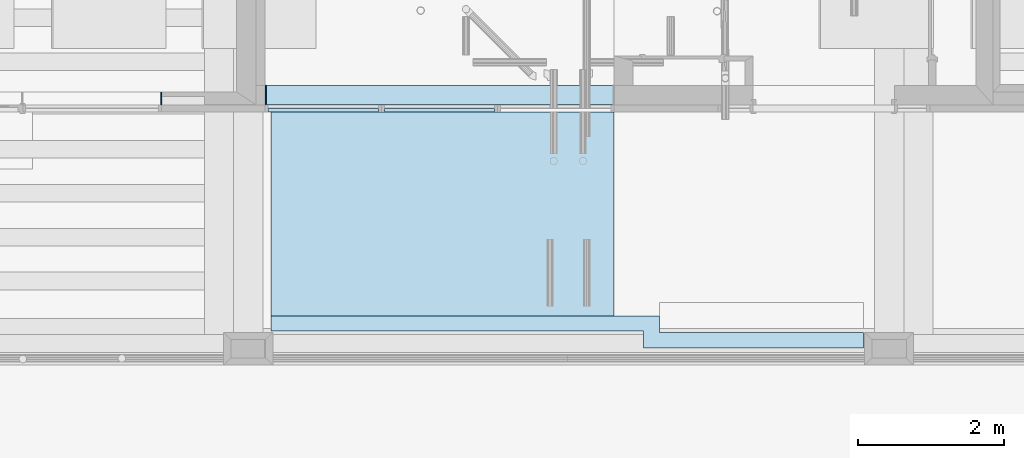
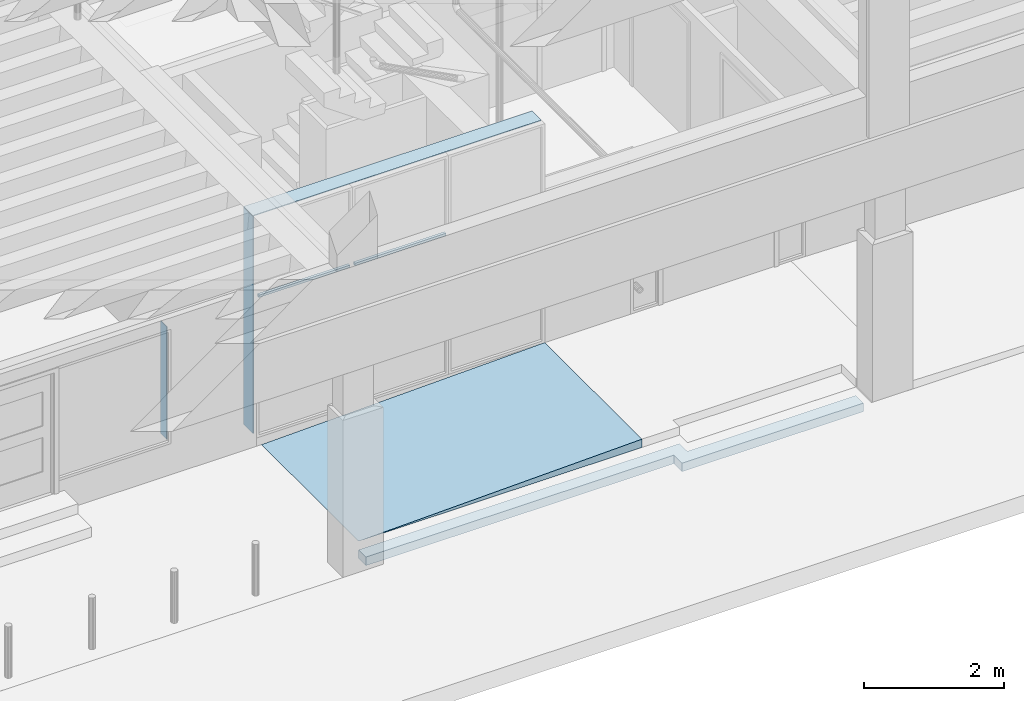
# One storey, part 16 of 106: 7 slabs.
"""IFC2X3 building model written with IfcOpenShell, lengths in metres."""

from ifc_helpers import new_model, entity, si_unit, converted_unit, derived_unit, money_unit, direction, origin_with_axes, place, context, subcontext, project, spatial, faceted_brep, material, type_object, element, save


model = new_model("IFC2X3")

# Units and contexts
model_context = context("Model", 3, precision=1e-05, world=origin_with_axes(), true_north=direction((0.0, 1.0)))
body_context = subcontext(model_context, "Body", "Model", "MODEL_VIEW", scale=1.0)
ifc_project = project(units=[si_unit("LENGTHUNIT", "METRE"), si_unit("AREAUNIT", "SQUARE_METRE"), si_unit("VOLUMEUNIT", "CUBIC_METRE"), si_unit("ABSORBEDDOSEUNIT", "GRAY"), si_unit("AMOUNTOFSUBSTANCEUNIT", "MOLE"), si_unit("DOSEEQUIVALENTUNIT", "SIEVERT"), si_unit("ELECTRICCAPACITANCEUNIT", "FARAD"), si_unit("ELECTRICCHARGEUNIT", "COULOMB"), si_unit("ELECTRICCONDUCTANCEUNIT", "SIEMENS"), si_unit("ELECTRICCURRENTUNIT", "AMPERE"), si_unit("ELECTRICRESISTANCEUNIT", "OHM"), si_unit("ELECTRICVOLTAGEUNIT", "VOLT"), si_unit("ENERGYUNIT", "JOULE"), si_unit("FORCEUNIT", "NEWTON"), si_unit("FREQUENCYUNIT", "HERTZ"), si_unit("ILLUMINANCEUNIT", "LUX"), si_unit("INDUCTANCEUNIT", "HENRY"), si_unit("LUMINOUSFLUXUNIT", "LUMEN"), si_unit("LUMINOUSINTENSITYUNIT", "CANDELA"), si_unit("MAGNETICFLUXDENSITYUNIT", "TESLA"), si_unit("MAGNETICFLUXUNIT", "WEBER"), si_unit("MASSUNIT", "GRAM"), converted_unit("PLANEANGLEUNIT", "degree", entity("IfcReal", 0.0174532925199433), si_unit("PLANEANGLEUNIT", "RADIAN"), dimensions=[0, 0, 0, 0, 0, 0, 0]), si_unit("POWERUNIT", "WATT"), si_unit("PRESSUREUNIT", "PASCAL"), si_unit("RADIOACTIVITYUNIT", "BECQUEREL"), si_unit("SOLIDANGLEUNIT", "STERADIAN"), si_unit("THERMODYNAMICTEMPERATUREUNIT", "KELVIN"), si_unit("TIMEUNIT", "SECOND"), derived_unit("ACCELERATIONUNIT", [(si_unit("LENGTHUNIT", "METRE"), 1), (si_unit("TIMEUNIT", "SECOND"), -2)]), derived_unit("ANGULARVELOCITYUNIT", [(converted_unit("PLANEANGLEUNIT", "degree", entity("IfcReal", 0.0174532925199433), si_unit("PLANEANGLEUNIT", "RADIAN"), dimensions=[0, 0, 0, 0, 0, 0, 0]), 1), (si_unit("TIMEUNIT", "SECOND"), -1)]), derived_unit("CURVATUREUNIT", [(converted_unit("PLANEANGLEUNIT", "degree", entity("IfcReal", 0.0174532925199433), si_unit("PLANEANGLEUNIT", "RADIAN"), dimensions=[0, 0, 0, 0, 0, 0, 0]), 1), (si_unit("LENGTHUNIT", "METRE"), -1)]), derived_unit("DYNAMICVISCOSITYUNIT", [(si_unit("PRESSUREUNIT", "PASCAL"), 1), (si_unit("TIMEUNIT", "SECOND"), 1)]), derived_unit("HEATFLUXDENSITYUNIT", [(si_unit("POWERUNIT", "WATT"), 1), (si_unit("LENGTHUNIT", "METRE"), -2)]), derived_unit("HEATINGVALUEUNIT", [(si_unit("ENERGYUNIT", "JOULE"), 1), (si_unit("MASSUNIT", "GRAM"), -1)]), derived_unit("INTEGERCOUNTRATEUNIT", [(si_unit("TIMEUNIT", "SECOND"), -1)]), derived_unit("IONCONCENTRATIONUNIT", [(si_unit("MASSUNIT", "GRAM"), 1), (si_unit("VOLUMEUNIT", "CUBIC_METRE"), -1)]), derived_unit("ISOTHERMALMOISTURECAPACITYUNIT", [(si_unit("VOLUMEUNIT", "CUBIC_METRE"), 1), (si_unit("MASSUNIT", "GRAM"), -1)]), derived_unit("KINEMATICVISCOSITYUNIT", [(si_unit("AREAUNIT", "SQUARE_METRE"), 1), (si_unit("TIMEUNIT", "SECOND"), -1)]), derived_unit("LINEARFORCEUNIT", [(si_unit("FORCEUNIT", "NEWTON"), 1), (si_unit("LENGTHUNIT", "METRE"), -1)]), derived_unit("LINEARMOMENTUNIT", [(si_unit("FORCEUNIT", "NEWTON"), 1), (si_unit("LENGTHUNIT", "METRE"), -1)]), derived_unit("LINEARSTIFFNESSUNIT", [(si_unit("FORCEUNIT", "NEWTON"), 1), (si_unit("LENGTHUNIT", "METRE"), -1)]), derived_unit("LINEARVELOCITYUNIT", [(si_unit("LENGTHUNIT", "METRE"), 1), (si_unit("TIMEUNIT", "SECOND"), -1)]), derived_unit("LUMINOUSINTENSITYDISTRIBUTIONUNIT", [(si_unit("LUMINOUSINTENSITYUNIT", "CANDELA"), 1), (si_unit("LUMINOUSFLUXUNIT", "LUMEN"), -1)]), derived_unit("MASSDENSITYUNIT", [(si_unit("MASSUNIT", "GRAM"), 1), (si_unit("VOLUMEUNIT", "CUBIC_METRE"), -1)]), derived_unit("MASSFLOWRATEUNIT", [(si_unit("MASSUNIT", "GRAM"), 1), (si_unit("TIMEUNIT", "SECOND"), -1)]), derived_unit("MASSPERLENGTHUNIT", [(si_unit("MASSUNIT", "GRAM"), 1), (si_unit("LENGTHUNIT", "METRE"), -1)]), derived_unit("MODULUSOFELASTICITYUNIT", [(si_unit("FORCEUNIT", "NEWTON"), 1), (si_unit("AREAUNIT", "SQUARE_METRE"), -1)]), derived_unit("MODULUSOFLINEARSUBGRADEREACTIONUNIT", [(si_unit("FORCEUNIT", "NEWTON"), 1), (si_unit("LENGTHUNIT", "METRE"), -2)]), derived_unit("MODULUSOFROTATIONALSUBGRADEREACTIONUNIT", [(si_unit("FORCEUNIT", "NEWTON"), 1), (si_unit("LENGTHUNIT", "METRE"), 1)]), derived_unit("MODULUSOFSUBGRADEREACTIONUNIT", [(si_unit("FORCEUNIT", "NEWTON"), 1), (si_unit("VOLUMEUNIT", "CUBIC_METRE"), -1)]), derived_unit("MOISTUREDIFFUSIVITYUNIT", [(si_unit("VOLUMEUNIT", "CUBIC_METRE"), 1), (si_unit("TIMEUNIT", "SECOND"), -1)]), derived_unit("MOLECULARWEIGHTUNIT", [(si_unit("MASSUNIT", "GRAM"), 1), (si_unit("AMOUNTOFSUBSTANCEUNIT", "MOLE"), -1)]), derived_unit("PLANARFORCEUNIT", [(si_unit("FORCEUNIT", "NEWTON"), 1), (si_unit("LENGTHUNIT", "METRE"), -2)]), derived_unit("ROTATIONALFREQUENCYUNIT", [(si_unit("TIMEUNIT", "SECOND"), -1)]), derived_unit("ROTATIONALMASSUNIT", [(si_unit("MASSUNIT", "GRAM"), 1), (si_unit("LENGTHUNIT", "METRE"), 2)]), derived_unit("ROTATIONALSTIFFNESSUNIT", [(si_unit("FORCEUNIT", "NEWTON"), 1), (si_unit("LENGTHUNIT", "METRE"), 1), (converted_unit("PLANEANGLEUNIT", "degree", entity("IfcReal", 0.0174532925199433), si_unit("PLANEANGLEUNIT", "RADIAN"), dimensions=[0, 0, 0, 0, 0, 0, 0]), -1)]), derived_unit("SECTIONAREAINTEGRALUNIT", [(si_unit("LENGTHUNIT", "METRE"), 5)]), derived_unit("SECTIONMODULUSUNIT", [(si_unit("LENGTHUNIT", "METRE"), 3)]), derived_unit("SHEARMODULUSUNIT", [(si_unit("FORCEUNIT", "NEWTON"), 1), (si_unit("AREAUNIT", "SQUARE_METRE"), -1)]), derived_unit("SOUNDPOWERUNIT", [(si_unit("ENERGYUNIT", "JOULE"), 1), (si_unit("TIMEUNIT", "SECOND"), -1)]), derived_unit("SPECIFICHEATCAPACITYUNIT", [(si_unit("FORCEUNIT", "NEWTON"), 1), (si_unit("MASSUNIT", "GRAM"), -1), (si_unit("THERMODYNAMICTEMPERATUREUNIT", "KELVIN"), -1)]), derived_unit("TEMPERATUREGRADIENTUNIT", [(si_unit("THERMODYNAMICTEMPERATUREUNIT", "KELVIN"), 1), (si_unit("LENGTHUNIT", "METRE"), -1)]), derived_unit("THERMALADMITTANCEUNIT", [(si_unit("POWERUNIT", "WATT"), 1), (si_unit("AREAUNIT", "SQUARE_METRE"), -1), (si_unit("THERMODYNAMICTEMPERATUREUNIT", "KELVIN"), -1)]), derived_unit("THERMALCONDUCTANCEUNIT", [(si_unit("POWERUNIT", "WATT"), 1), (si_unit("LENGTHUNIT", "METRE"), -1), (si_unit("THERMODYNAMICTEMPERATUREUNIT", "KELVIN"), -1)]), derived_unit("THERMALEXPANSIONCOEFFICIENTUNIT", [(si_unit("THERMODYNAMICTEMPERATUREUNIT", "KELVIN"), -1)]), derived_unit("THERMALRESISTANCEUNIT", [(si_unit("AREAUNIT", "SQUARE_METRE"), 1), (si_unit("POWERUNIT", "WATT"), -1)]), derived_unit("THERMALTRANSMITTANCEUNIT", [(si_unit("POWERUNIT", "WATT"), 1), (si_unit("AREAUNIT", "SQUARE_METRE"), -1), (si_unit("THERMODYNAMICTEMPERATUREUNIT", "KELVIN"), -1)]), derived_unit("TORQUEUNIT", [(si_unit("FORCEUNIT", "NEWTON"), 1), (si_unit("LENGTHUNIT", "METRE"), 1)]), derived_unit("VAPORPERMEABILITYUNIT", [(si_unit("MASSUNIT", "GRAM"), 1), (si_unit("TIMEUNIT", "SECOND"), -1)]), derived_unit("VOLUMETRICFLOWRATEUNIT", [(si_unit("VOLUMEUNIT", "CUBIC_METRE"), 1), (si_unit("TIMEUNIT", "SECOND"), -1)]), derived_unit("WARPINGCONSTANTUNIT", [(si_unit("LENGTHUNIT", "METRE"), 6)]), derived_unit("WARPINGMOMENTUNIT", [(si_unit("FORCEUNIT", "NEWTON"), 1), (si_unit("LENGTHUNIT", "METRE"), 2)]), money_unit("GBP")], contexts=[model_context])

# Site, building, storey
site_placement = place(None, origin_with_axes())
site = spatial("IfcSite", under=ifc_project, at=site_placement, Name="Site", CompositionType="ELEMENT")
building_placement = place(site_placement, origin_with_axes())
building = spatial("IfcBuilding", under=site, at=building_placement, Name="Building01", CompositionType="ELEMENT")
storey_placement = place(building_placement, origin_with_axes())
storey = spatial("IfcBuildingStorey", under=building, at=storey_placement, Name="GF", CompositionType="ELEMENT", Elevation=0.0)

# Slabs
ifc_material_1 = material(Name="A_BSUK_Slabs")
slab_type = type_object("IfcSlabType", Name="A-FloorsSlabs A_BSUK_Slabs", PredefinedType="FLOOR")
placement = place(storey_placement, origin_with_axes())
element("IfcSlab", 1, at=placement, inside=storey, type_object=slab_type, material=ifc_material_1, Name="A-FloorsSlabs A_BSUK_Slabs", ObjectType="CompoundSlabLeaf", context=body_context, shape_type="Brep", body=[
    faceted_brep([(9.437557, 0.463994, -0.445), (9.437557, 0.463994, -0.295), (9.437557, 0.672774, -0.295), (9.437557, 0.672774, -0.445), (14.529762, 0.463994, -0.445), (14.529762, 0.463994, -0.295), (14.529762, 0.231664, -0.445), (14.529762, 0.231664, -0.295), (17.533204, 0.231664, -0.445), (17.533204, 0.231664, -0.295), (17.533212, 0.449009, -0.445), (17.533212, 0.449009, -0.295), (14.745613, 0.449113, -0.445), (14.745613, 0.449113, -0.295), (14.745621, 0.672774, -0.445), (14.745621, 0.672774, -0.295)], [[[0, 1, 2, 3]], [[4, 5, 1, 0]], [[6, 7, 5, 4]], [[8, 9, 7, 6]], [[10, 11, 9, 8]], [[12, 13, 11, 10]], [[14, 15, 13, 12]], [[3, 2, 15, 14]], [[1, 5, 7, 9, 11, 13, 15, 2]], [[3, 14, 12, 10, 8, 6, 4, 0]]]),
])
element("IfcSlab", 2, at=placement, inside=storey, type_object=slab_type, material=ifc_material_1, Name="A-FloorsSlabs A_BSUK_Slabs", ObjectType="CompoundSlabLeaf", context=body_context, shape_type="Brep", body=[
    faceted_brep([(7.941681, 3.559009, 0.413), (7.926681, 3.559009, 0.413), (7.926681, 3.733332, 0.413), (7.941681, 3.733332, 0.413), (7.941681, 3.55892, 2.383), (7.926681, 3.55892, 2.383), (7.941681, 3.733208, 2.383), (7.926681, 3.733208, 2.383)], [[[0, 1, 2, 3]], [[4, 5, 1, 0]], [[6, 7, 5, 4]], [[3, 2, 7, 6]], [[1, 5, 7, 2]], [[3, 6, 4, 0]]]),
])
element("IfcSlab", 3, at=placement, inside=storey, type_object=slab_type, material=ifc_material_1, Name="A-FloorsSlabs A_BSUK_Slabs", ObjectType="CompoundSlabLeaf", context=body_context, shape_type="Brep", body=[
    faceted_brep([(14.124099, 0.672774, -0.145), (14.124099, 3.458774, -0.145), (14.124099, 3.458774, 0.0), (14.124099, 0.672774, 0.0), (9.437531, 0.672774, -0.145), (9.437531, 3.458774, -0.145)], [[[0, 1, 2, 3]], [[4, 5, 1, 0]], [[3, 2, 5, 4]], [[1, 5, 2]], [[3, 4, 0]]]),
])
element("IfcSlab", 4, at=placement, inside=storey, type_object=slab_type, material=ifc_material_1, Name="A-FloorsSlabs A_BSUK_Slabs", ObjectType="CompoundSlabLeaf", context=body_context, shape_type="Brep", body=[
    faceted_brep([(9.354099, 3.559352, 3.815), (9.354099, 3.559352, 3.83), (9.354099, 3.823962, 3.83), (9.354099, 3.823962, 3.815), (14.124099, 3.559352, 3.815), (14.124099, 3.559352, 3.83), (14.124099, 3.823962, 3.815), (14.124099, 3.823962, 3.83)], [[[0, 1, 2, 3]], [[4, 5, 1, 0]], [[6, 7, 5, 4]], [[3, 2, 7, 6]], [[1, 5, 7, 2]], [[3, 6, 4, 0]]]),
])
element("IfcSlab", 5, at=placement, inside=storey, type_object=slab_type, material=ifc_material_1, Name="A-FloorsSlabs A_BSUK_Slabs", ObjectType="CompoundSlabLeaf", context=body_context, shape_type="Brep", body=[
    faceted_brep([(9.369099, 3.559352, 0.015), (9.354099, 3.559352, 0.015), (9.354099, 3.823962, 0.015), (9.369099, 3.823962, 0.015), (9.369099, 3.559188, 3.815), (9.354099, 3.559188, 3.815), (9.369099, 3.823763, 3.815), (9.354099, 3.823763, 3.815)], [[[0, 1, 2, 3]], [[4, 5, 1, 0]], [[6, 7, 5, 4]], [[3, 2, 7, 6]], [[1, 5, 7, 2]], [[3, 6, 4, 0]]]),
])
ifc_material_2 = material(Name="A_BSUK_Window_Frames")
element("IfcSlab", 6, at=placement, inside=storey, type_object=slab_type, material=ifc_material_2, Name="A-FloorsSlabs A_BSUK_Slabs", ObjectType="CompoundSlabLeaf", context=body_context, shape_type="Brep", body=[
    faceted_brep([(10.986099, 3.458391, 2.442), (10.986099, 3.458391, 2.484), (10.986099, 3.505216, 2.484), (10.986099, 3.505216, 2.442), (12.492099, 3.458391, 2.442), (12.492099, 3.458391, 2.484), (12.492099, 3.505159, 2.442), (12.492099, 3.505159, 2.484)], [[[0, 1, 2, 3]], [[4, 5, 1, 0]], [[6, 7, 5, 4]], [[3, 2, 7, 6]], [[1, 5, 7, 2]], [[3, 6, 4, 0]]]),
])
element("IfcSlab", 7, at=placement, inside=storey, type_object=slab_type, material=ifc_material_2, Name="A-FloorsSlabs A_BSUK_Slabs", ObjectType="CompoundSlabLeaf", context=body_context, shape_type="Brep", body=[
    faceted_brep([(9.396099, 3.458391, 2.442), (9.396099, 3.458391, 2.484), (9.396099, 3.505216, 2.484), (9.396099, 3.505216, 2.442), (10.902099, 3.458391, 2.442), (10.902099, 3.458391, 2.484), (10.902099, 3.505159, 2.442), (10.902099, 3.505159, 2.484)], [[[0, 1, 2, 3]], [[4, 5, 1, 0]], [[6, 7, 5, 4]], [[3, 2, 7, 6]], [[1, 5, 7, 2]], [[3, 6, 4, 0]]]),
])

save(model, "model.ifc")
